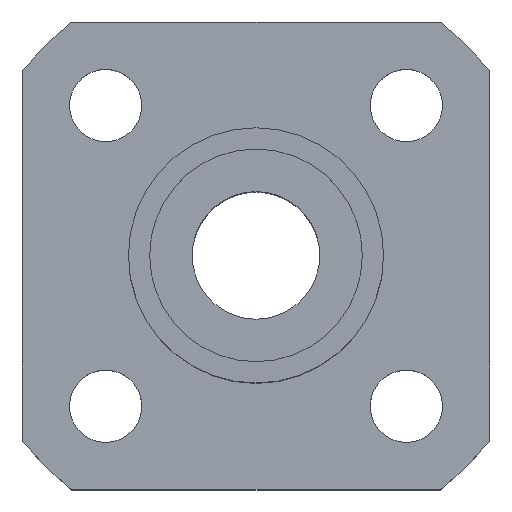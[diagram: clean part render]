
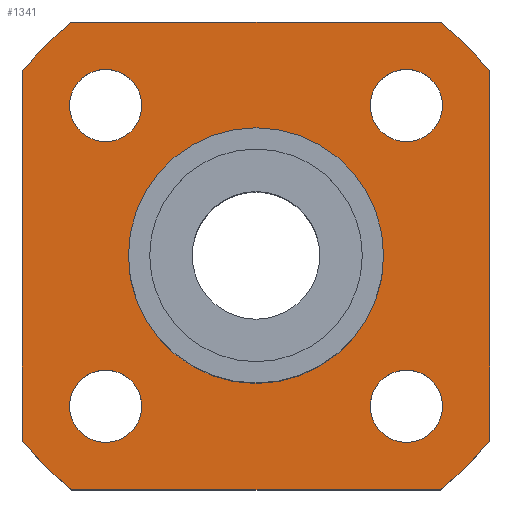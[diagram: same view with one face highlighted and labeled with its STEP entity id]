
A CAD part, top view. The second image highlights one B-rep face of the part: STEP entity #1341.
In plain terms, the highlighted planar face has unit normal (0, 0, 1).
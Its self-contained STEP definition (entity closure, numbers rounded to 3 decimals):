
#91=CARTESIAN_POINT('',(-20.031,3.294,5.0));
#92=VERTEX_POINT('',#91);
#101=CARTESIAN_POINT('',(-8.031,3.294,5.0));
#102=VERTEX_POINT('',#101);
#103=CARTESIAN_POINT('',(-14.031,3.294,5.0));
#104=DIRECTION('',(0.0,0.0,-1.0));
#105=DIRECTION('',(-1.0,0.0,0.0));
#106=AXIS2_PLACEMENT_3D('',#103,#104,#105);
#107=CIRCLE('',#106,6.);
#108=EDGE_CURVE('',#102,#92,#107,.T.);
#217=CARTESIAN_POINT('',(-19.402,-3.777,5.0));
#218=VERTEX_POINT('',#217);
#227=CARTESIAN_POINT('',(-22.802,-3.777,5.0));
#228=VERTEX_POINT('',#227);
#229=CARTESIAN_POINT('',(-21.102,-3.777,5.0));
#230=DIRECTION('',(0.0,0.0,-1.0));
#231=DIRECTION('',(1.0,0.0,0.0));
#232=AXIS2_PLACEMENT_3D('',#229,#230,#231);
#233=CIRCLE('',#232,1.7);
#234=EDGE_CURVE('',#228,#218,#233,.T.);
#301=CARTESIAN_POINT('',(-5.26,10.366,5.0));
#302=VERTEX_POINT('',#301);
#311=CARTESIAN_POINT('',(-8.66,10.366,5.0));
#312=VERTEX_POINT('',#311);
#313=CARTESIAN_POINT('',(-6.96,10.366,5.0));
#314=DIRECTION('',(0.0,0.0,-1.0));
#315=DIRECTION('',(1.0,0.0,0.0));
#316=AXIS2_PLACEMENT_3D('',#313,#314,#315);
#317=CIRCLE('',#316,1.7);
#318=EDGE_CURVE('',#312,#302,#317,.T.);
#385=CARTESIAN_POINT('',(-19.402,10.366,5.0));
#386=VERTEX_POINT('',#385);
#395=CARTESIAN_POINT('',(-22.802,10.366,5.0));
#396=VERTEX_POINT('',#395);
#397=CARTESIAN_POINT('',(-21.102,10.366,5.0));
#398=DIRECTION('',(0.0,0.0,-1.0));
#399=DIRECTION('',(1.0,0.0,0.0));
#400=AXIS2_PLACEMENT_3D('',#397,#398,#399);
#401=CIRCLE('',#400,1.7);
#402=EDGE_CURVE('',#396,#386,#401,.T.);
#469=CARTESIAN_POINT('',(-5.26,-3.777,5.0));
#470=VERTEX_POINT('',#469);
#479=CARTESIAN_POINT('',(-8.66,-3.777,5.0));
#480=VERTEX_POINT('',#479);
#481=CARTESIAN_POINT('',(-6.96,-3.777,5.0));
#482=DIRECTION('',(0.0,0.0,-1.0));
#483=DIRECTION('',(1.0,0.0,0.0));
#484=AXIS2_PLACEMENT_3D('',#481,#482,#483);
#485=CIRCLE('',#484,1.7);
#486=EDGE_CURVE('',#480,#470,#485,.T.);
#686=CARTESIAN_POINT('',(-6.96,-3.777,5.0));
#687=DIRECTION('',(0.0,0.0,-1.0));
#688=DIRECTION('',(1.0,0.0,0.0));
#689=AXIS2_PLACEMENT_3D('',#686,#687,#688);
#690=CIRCLE('',#689,1.7);
#691=EDGE_CURVE('',#470,#480,#690,.T.);
#748=CARTESIAN_POINT('',(-21.102,10.366,5.0));
#749=DIRECTION('',(0.0,0.0,-1.0));
#750=DIRECTION('',(1.0,0.0,0.0));
#751=AXIS2_PLACEMENT_3D('',#748,#749,#750);
#752=CIRCLE('',#751,1.7);
#753=EDGE_CURVE('',#386,#396,#752,.T.);
#810=CARTESIAN_POINT('',(-6.96,10.366,5.0));
#811=DIRECTION('',(0.0,0.0,-1.0));
#812=DIRECTION('',(1.0,0.0,0.0));
#813=AXIS2_PLACEMENT_3D('',#810,#811,#812);
#814=CIRCLE('',#813,1.7);
#815=EDGE_CURVE('',#302,#312,#814,.T.);
#872=CARTESIAN_POINT('',(-21.102,-3.777,5.0));
#873=DIRECTION('',(0.0,0.0,-1.0));
#874=DIRECTION('',(1.0,0.0,0.0));
#875=AXIS2_PLACEMENT_3D('',#872,#873,#874);
#876=CIRCLE('',#875,1.7);
#877=EDGE_CURVE('',#218,#228,#876,.T.);
#1074=CARTESIAN_POINT('',(-14.031,3.294,5.0));
#1075=DIRECTION('',(0.0,0.0,-1.0));
#1076=DIRECTION('',(-1.0,0.0,0.0));
#1077=AXIS2_PLACEMENT_3D('',#1074,#1075,#1076);
#1078=CIRCLE('',#1077,6.);
#1079=EDGE_CURVE('',#92,#102,#1078,.T.);
#1115=CARTESIAN_POINT('',(-5.37,14.294,5.0));
#1116=VERTEX_POINT('',#1115);
#1117=CARTESIAN_POINT('',(-3.031,11.955,5.0));
#1118=VERTEX_POINT('',#1117);
#1119=CARTESIAN_POINT('',(-14.031,3.294,5.0));
#1120=DIRECTION('',(0.0,0.0,-1.));
#1121=DIRECTION('',(0.786,0.619,0.0));
#1122=AXIS2_PLACEMENT_3D('',#1119,#1120,#1121);
#1123=CIRCLE('',#1122,14.);
#1124=EDGE_CURVE('',#1116,#1118,#1123,.T.);
#1147=CARTESIAN_POINT('',(-3.031,-5.366,5.0));
#1148=VERTEX_POINT('',#1147);
#1149=CARTESIAN_POINT('',(-3.031,11.955,5.0));
#1150=DIRECTION('',(0.0,-1.0,0.0));
#1151=VECTOR('',#1150,17.321);
#1152=LINE('',#1149,#1151);
#1153=EDGE_CURVE('',#1118,#1148,#1152,.T.);
#1171=CARTESIAN_POINT('',(-5.37,-7.706,5.0));
#1172=VERTEX_POINT('',#1171);
#1173=CARTESIAN_POINT('',(-14.031,3.294,5.0));
#1174=DIRECTION('',(0.0,0.0,-1.));
#1175=DIRECTION('',(0.619,-0.786,0.0));
#1176=AXIS2_PLACEMENT_3D('',#1173,#1174,#1175);
#1177=CIRCLE('',#1176,14.);
#1178=EDGE_CURVE('',#1148,#1172,#1177,.T.);
#1196=CARTESIAN_POINT('',(-22.691,-7.706,5.0));
#1197=VERTEX_POINT('',#1196);
#1198=CARTESIAN_POINT('',(-5.37,-7.706,5.0));
#1199=DIRECTION('',(-1.0,0.0,0.0));
#1200=VECTOR('',#1199,17.321);
#1201=LINE('',#1198,#1200);
#1202=EDGE_CURVE('',#1172,#1197,#1201,.T.);
#1220=CARTESIAN_POINT('',(-25.031,-5.366,5.0));
#1221=VERTEX_POINT('',#1220);
#1222=CARTESIAN_POINT('',(-14.031,3.294,5.0));
#1223=DIRECTION('',(0.0,0.0,-1.));
#1224=DIRECTION('',(-0.786,-0.619,0.0));
#1225=AXIS2_PLACEMENT_3D('',#1222,#1223,#1224);
#1226=CIRCLE('',#1225,14.);
#1227=EDGE_CURVE('',#1197,#1221,#1226,.T.);
#1245=CARTESIAN_POINT('',(-25.031,11.955,5.0));
#1246=VERTEX_POINT('',#1245);
#1247=CARTESIAN_POINT('',(-25.031,-5.366,5.0));
#1248=DIRECTION('',(0.0,1.0,0.0));
#1249=VECTOR('',#1248,17.321);
#1250=LINE('',#1247,#1249);
#1251=EDGE_CURVE('',#1221,#1246,#1250,.T.);
#1269=CARTESIAN_POINT('',(-22.691,14.294,5.0));
#1270=VERTEX_POINT('',#1269);
#1271=CARTESIAN_POINT('',(-14.031,3.294,5.0));
#1272=DIRECTION('',(0.0,0.0,-1.0));
#1273=DIRECTION('',(-0.619,0.786,0.0));
#1274=AXIS2_PLACEMENT_3D('',#1271,#1272,#1273);
#1275=CIRCLE('',#1274,14.);
#1276=EDGE_CURVE('',#1246,#1270,#1275,.T.);
#1294=CARTESIAN_POINT('',(-22.691,14.294,5.0));
#1295=DIRECTION('',(1.0,0.0,0.0));
#1296=VECTOR('',#1295,17.321);
#1297=LINE('',#1294,#1296);
#1298=EDGE_CURVE('',#1270,#1116,#1297,.T.);
#1306=CARTESIAN_POINT('',(-14.031,3.294,5.0));
#1307=DIRECTION('',(0.0,0.0,1.0));
#1308=DIRECTION('',(1.0,0.0,0.0));
#1309=AXIS2_PLACEMENT_3D('',#1306,#1307,#1308);
#1310=PLANE('',#1309);
#1311=ORIENTED_EDGE('',*,*,#1124,.F.);
#1312=ORIENTED_EDGE('',*,*,#1298,.F.);
#1313=ORIENTED_EDGE('',*,*,#1276,.F.);
#1314=ORIENTED_EDGE('',*,*,#1251,.F.);
#1315=ORIENTED_EDGE('',*,*,#1227,.F.);
#1316=ORIENTED_EDGE('',*,*,#1202,.F.);
#1317=ORIENTED_EDGE('',*,*,#1178,.F.);
#1318=ORIENTED_EDGE('',*,*,#1153,.F.);
#1319=EDGE_LOOP('',(#1311,#1312,#1313,#1314,#1315,#1316,#1317,#1318));
#1320=FACE_OUTER_BOUND('',#1319,.T.);
#1321=ORIENTED_EDGE('',*,*,#486,.T.);
#1322=ORIENTED_EDGE('',*,*,#691,.T.);
#1323=EDGE_LOOP('',(#1321,#1322));
#1324=FACE_BOUND('',#1323,.T.);
#1325=ORIENTED_EDGE('',*,*,#402,.T.);
#1326=ORIENTED_EDGE('',*,*,#753,.T.);
#1327=EDGE_LOOP('',(#1325,#1326));
#1328=FACE_BOUND('',#1327,.T.);
#1329=ORIENTED_EDGE('',*,*,#318,.T.);
#1330=ORIENTED_EDGE('',*,*,#815,.T.);
#1331=EDGE_LOOP('',(#1329,#1330));
#1332=FACE_BOUND('',#1331,.T.);
#1333=ORIENTED_EDGE('',*,*,#234,.T.);
#1334=ORIENTED_EDGE('',*,*,#877,.T.);
#1335=EDGE_LOOP('',(#1333,#1334));
#1336=FACE_BOUND('',#1335,.T.);
#1337=ORIENTED_EDGE('',*,*,#108,.T.);
#1338=ORIENTED_EDGE('',*,*,#1079,.T.);
#1339=EDGE_LOOP('',(#1337,#1338));
#1340=FACE_BOUND('',#1339,.T.);
#1341=ADVANCED_FACE('',(#1320,#1324,#1328,#1332,#1336,#1340),#1310,.T.);
